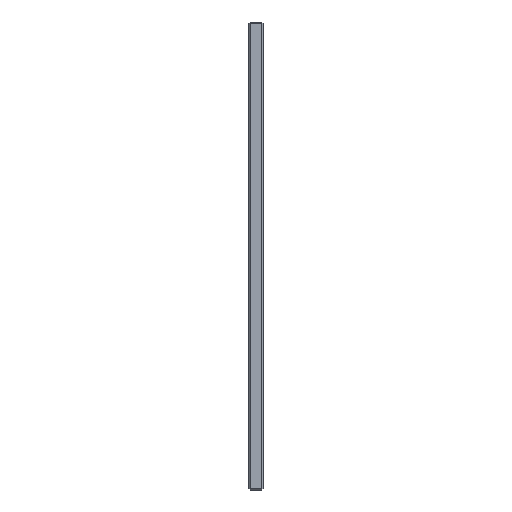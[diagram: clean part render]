
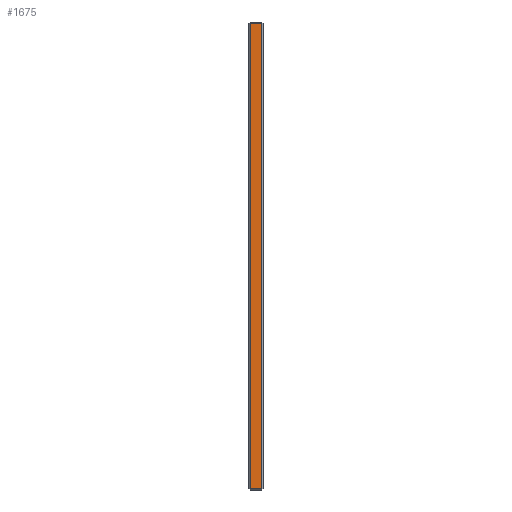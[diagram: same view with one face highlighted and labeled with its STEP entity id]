
A CAD part, left-side view. The second image highlights one B-rep face of the part: STEP entity #1675.
In plain terms, the highlighted planar face has unit normal (-1, 0, 0).
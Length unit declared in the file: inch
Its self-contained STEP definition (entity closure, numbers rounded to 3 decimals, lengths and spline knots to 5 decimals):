
#36 = VERTEX_POINT ( 'NONE', #1621 ) ;
#100 = EDGE_LOOP ( 'NONE', ( #722, #921, #797, #664 ) ) ;
#110 = PLANE ( 'NONE',  #392 ) ;
#112 = VERTEX_POINT ( 'NONE', #1054 ) ;
#189 = VECTOR ( 'NONE', #1700, 39.37008 ) ;
#296 = VERTEX_POINT ( 'NONE', #1418 ) ;
#390 = CARTESIAN_POINT ( 'NONE',  ( -9.9375, 0.45, -7.875 ) ) ;
#392 = AXIS2_PLACEMENT_3D ( 'NONE', #1001, #425, #1444 ) ;
#425 = DIRECTION ( 'NONE',  ( 1., 0., 0. ) ) ;
#429 = LINE ( 'NONE', #390, #189 ) ;
#470 = EDGE_CURVE ( 'NONE', #296, #1465, #878, .T. ) ;
#664 = ORIENTED_EDGE ( 'NONE', *, *, #1452, .T. ) ;
#722 = ORIENTED_EDGE ( 'NONE', *, *, #1806, .T. ) ;
#768 = DIRECTION ( 'NONE',  ( 0., 0., 1. ) ) ;
#797 = ORIENTED_EDGE ( 'NONE', *, *, #1226, .T. ) ;
#878 = LINE ( 'NONE', #1074, #1795 ) ;
#921 = ORIENTED_EDGE ( 'NONE', *, *, #470, .T. ) ;
#940 = LINE ( 'NONE', #1063, #959 ) ;
#959 = VECTOR ( 'NONE', #768, 39.37008 ) ;
#1001 = CARTESIAN_POINT ( 'NONE',  ( -9.9375, 0.5, -7.875 ) ) ;
#1026 = LINE ( 'NONE', #1489, #1162 ) ;
#1054 = CARTESIAN_POINT ( 'NONE',  ( -9.9375, 0.05, 7.825 ) ) ;
#1063 = CARTESIAN_POINT ( 'NONE',  ( -9.9375, 0.05, -7.875 ) ) ;
#1074 = CARTESIAN_POINT ( 'NONE',  ( -9.9375, 0.5, -7.825 ) ) ;
#1132 = FACE_OUTER_BOUND ( 'NONE', #100, .T. ) ;
#1162 = VECTOR ( 'NONE', #1620, 39.37008 ) ;
#1226 = EDGE_CURVE ( 'NONE', #1465, #112, #940, .T. ) ;
#1418 = CARTESIAN_POINT ( 'NONE',  ( -9.9375, 0.45, -7.825 ) ) ;
#1444 = DIRECTION ( 'NONE',  ( 0., 0., -1. ) ) ;
#1452 = EDGE_CURVE ( 'NONE', #112, #36, #1026, .T. ) ;
#1465 = VERTEX_POINT ( 'NONE', #1915 ) ;
#1489 = CARTESIAN_POINT ( 'NONE',  ( -9.9375, 0.5, 7.825 ) ) ;
#1620 = DIRECTION ( 'NONE',  ( 0., 1., 0. ) ) ;
#1621 = CARTESIAN_POINT ( 'NONE',  ( -9.9375, 0.45, 7.825 ) ) ;
#1624 = DIRECTION ( 'NONE',  ( 0., -1., 0. ) ) ;
#1675 = ADVANCED_FACE ( 'Placement Plane', ( #1132 ), #110, .F. ) ;
#1700 = DIRECTION ( 'NONE',  ( 0., 0., -1. ) ) ;
#1795 = VECTOR ( 'NONE', #1624, 39.37008 ) ;
#1806 = EDGE_CURVE ( 'NONE', #36, #296, #429, .T. ) ;
#1915 = CARTESIAN_POINT ( 'NONE',  ( -9.9375, 0.05, -7.825 ) ) ;
